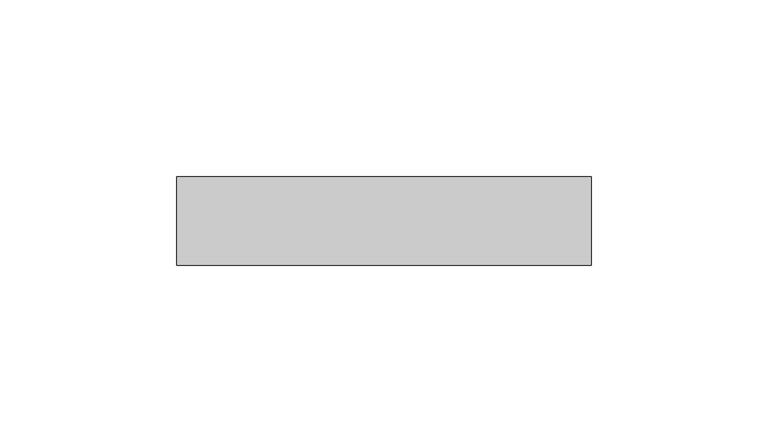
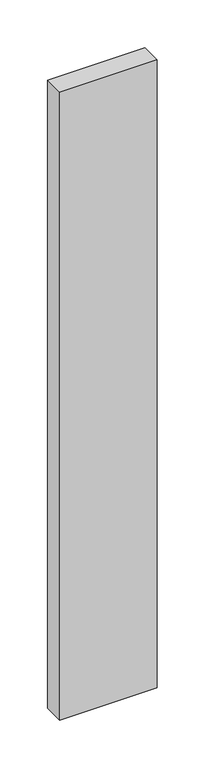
"""IFC4 building model written with IfcOpenShell, lengths in millimetres: plate geometry, 系统嵌板 : 玻璃."""

from ifc_helpers import new_model, si_unit, origin, origin_with_axes, place, context, project, spatial, polyline, outline, extrude, source, transform, mapped, element, save


def plate_d4bc9f12(model_context):
    return source(origin(), model_context, "Body", "SweptSolid", [
        extrude(outline(polyline([(58.5786436, -12.5), (-58.5786436, -12.5), (-58.5786436, 12.5), (58.5786436, 12.5), (58.5786436, -12.5)])), origin_with_axes(), (0.0, 0.0, 1.0), 800.0),
    ])


if __name__ == "__main__":
    model = new_model("IFC4")
    model_context = context("Model", 3, world=origin())
    ifc_project = project(units=[si_unit("LENGTHUNIT", "METRE", prefix="MILLI")], contexts=[model_context])
    site = spatial("IfcSite", under=ifc_project)
    building = spatial("IfcBuilding", under=site)
    placement = place(None, origin())
    plate_shape = plate_d4bc9f12(model_context)
    element("IfcPlate", 1, ObjectType="系统嵌板 : 玻璃", at=placement, inside=building, context=model_context, shape_type="MappedRepresentation", body=[
        mapped(plate_shape, transform((0.0, 0.0, 0.0), x_axis=(1.0, 0.0, 0.0), y_axis=(0.0, 1.0, 0.0), z_axis=(0.0, 0.0, 1.0))),
    ])
    save(model, "model.ifc")
